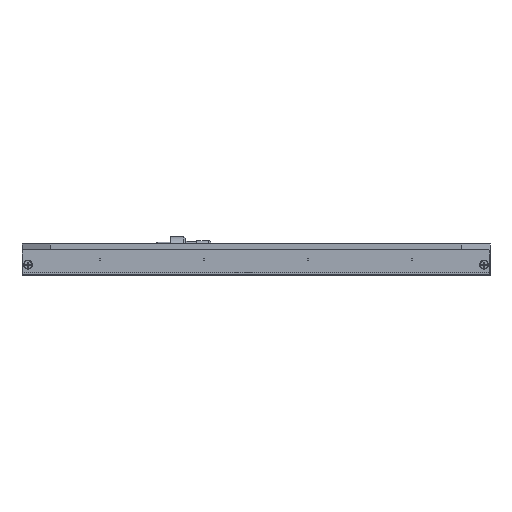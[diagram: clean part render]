
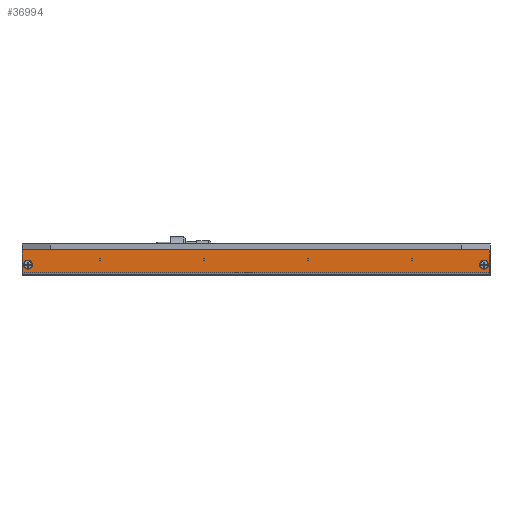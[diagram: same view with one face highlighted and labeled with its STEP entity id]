
A CAD part, front view. The second image highlights one B-rep face of the part: STEP entity #36994.
In plain terms, the highlighted planar face has unit normal (0, -1, 0).
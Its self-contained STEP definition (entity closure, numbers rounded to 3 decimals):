
#9377=DIRECTION('',(-1.,0.,0.));
#9378=VECTOR('',#9377,314.6);
#9379=CARTESIAN_POINT('',(157.3,-207.5,0.));
#9380=LINE('',#9379,#9378);
#10822=CARTESIAN_POINT('',(-153.5,-207.5,-10.));
#10823=DIRECTION('',(0.,1.,0.));
#10824=DIRECTION('',(0.,0.,1.));
#10825=AXIS2_PLACEMENT_3D('',#10822,#10823,#10824);
#10827=CARTESIAN_POINT('',(-153.5,-207.5,-10.));
#10828=DIRECTION('',(0.,1.,0.));
#10829=DIRECTION('',(0.,0.,-1.));
#10830=AXIS2_PLACEMENT_3D('',#10827,#10828,#10829);
#10832=CARTESIAN_POINT('',(153.5,-207.5,-10.));
#10833=DIRECTION('',(0.,1.,0.));
#10834=DIRECTION('',(0.,0.,-1.));
#10835=AXIS2_PLACEMENT_3D('',#10832,#10833,#10834);
#10837=CARTESIAN_POINT('',(153.5,-207.5,-10.));
#10838=DIRECTION('',(0.,1.,0.));
#10839=DIRECTION('',(0.,0.,1.));
#10840=AXIS2_PLACEMENT_3D('',#10837,#10838,#10839);
#10842=DIRECTION('',(1.,0.,0.));
#10843=VECTOR('',#10842,314.6);
#10844=CARTESIAN_POINT('',(-157.3,-207.5,-16.8));
#10845=LINE('',#10844,#10843);
#10846=DIRECTION('',(0.,0.,-1.));
#10847=VECTOR('',#10846,16.8);
#10848=CARTESIAN_POINT('',(-157.3,-207.5,0.));
#10849=LINE('',#10848,#10847);
#11606=DIRECTION('',(0.,0.,-1.));
#11607=VECTOR('',#11606,16.8);
#11608=CARTESIAN_POINT('',(157.3,-207.5,0.));
#11609=LINE('',#11608,#11607);
#16938=CARTESIAN_POINT('',(-157.3,-207.5,-16.8));
#16939=VERTEX_POINT('',#16938);
#16946=CARTESIAN_POINT('',(157.3,-207.5,-16.8));
#16947=VERTEX_POINT('',#16946);
#16948=CARTESIAN_POINT('',(153.5,-207.5,-7.));
#16949=CARTESIAN_POINT('',(153.5,-207.5,-13.));
#16950=VERTEX_POINT('',#16948);
#16951=VERTEX_POINT('',#16949);
#16952=CARTESIAN_POINT('',(-153.5,-207.5,-13.));
#16953=CARTESIAN_POINT('',(-153.5,-207.5,-7.));
#16954=VERTEX_POINT('',#16952);
#16955=VERTEX_POINT('',#16953);
#20243=CARTESIAN_POINT('',(-157.3,-207.5,0.));
#20245=VERTEX_POINT('',#20243);
#20246=CARTESIAN_POINT('',(157.3,-207.5,0.));
#20247=VERTEX_POINT('',#20246);
#36969=CARTESIAN_POINT('',(-157.5,-207.5,-17.));
#36970=DIRECTION('',(0.,-1.,0.));
#36971=DIRECTION('',(0.,0.,1.));
#36972=AXIS2_PLACEMENT_3D('',#36969,#36970,#36971);
#36973=PLANE('',#36972);
#36975=ORIENTED_EDGE('',*,*,#36974,.T.);
#36977=ORIENTED_EDGE('',*,*,#36976,.F.);
#36978=ORIENTED_EDGE('',*,*,#36959,.F.);
#36979=ORIENTED_EDGE('',*,*,#34649,.F.);
#36980=EDGE_LOOP('',(#36975,#36977,#36978,#36979));
#36981=FACE_OUTER_BOUND('',#36980,.F.);
#36983=ORIENTED_EDGE('',*,*,#36982,.F.);
#36985=ORIENTED_EDGE('',*,*,#36984,.F.);
#36986=EDGE_LOOP('',(#36983,#36985));
#36987=FACE_BOUND('',#36986,.F.);
#36989=ORIENTED_EDGE('',*,*,#36988,.F.);
#36991=ORIENTED_EDGE('',*,*,#36990,.F.);
#36992=EDGE_LOOP('',(#36989,#36991));
#36993=FACE_BOUND('',#36992,.F.);
#10826=CIRCLE('',#10825,3.);
#10831=CIRCLE('',#10830,3.);
#10836=CIRCLE('',#10835,3.);
#10841=CIRCLE('',#10840,3.);
#34649=EDGE_CURVE('',#20247,#20245,#9380,.T.);
#36959=EDGE_CURVE('',#20245,#16939,#10849,.T.);
#36974=EDGE_CURVE('',#20247,#16947,#11609,.T.);
#36976=EDGE_CURVE('',#16939,#16947,#10845,.T.);
#36982=EDGE_CURVE('',#16951,#16950,#10836,.T.);
#36984=EDGE_CURVE('',#16950,#16951,#10841,.T.);
#36988=EDGE_CURVE('',#16955,#16954,#10826,.T.);
#36990=EDGE_CURVE('',#16954,#16955,#10831,.T.);
#36994=ADVANCED_FACE('',(#36981,#36987,#36993),#36973,.T.);
